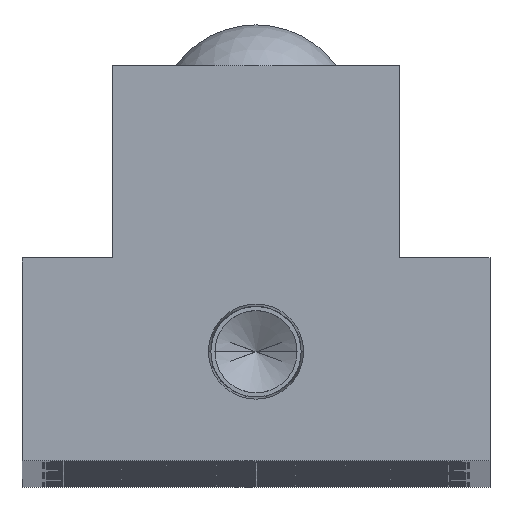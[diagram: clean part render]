
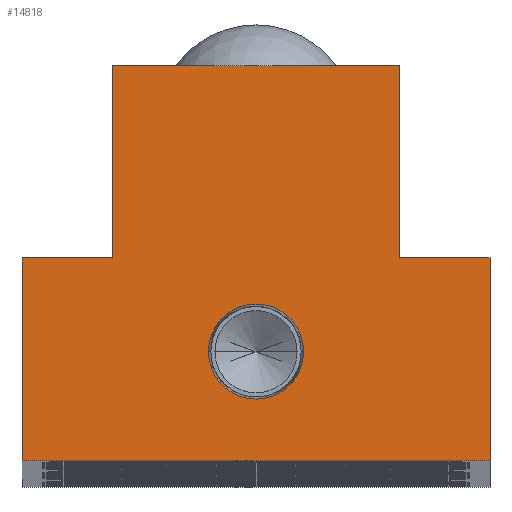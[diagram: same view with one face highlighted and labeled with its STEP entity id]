
A CAD part, top view. The second image highlights one B-rep face of the part: STEP entity #14818.
In plain terms, the highlighted planar face has unit normal (0, 0, 1).
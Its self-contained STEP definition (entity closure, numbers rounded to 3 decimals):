
#521 = VERTEX_POINT ( 'NONE', #18515 ) ;
#1374 = DIRECTION ( 'NONE',  ( 0., -1., 0. ) ) ;
#1887 = DIRECTION ( 'NONE',  ( -1., 0., 0. ) ) ;
#2475 = ORIENTED_EDGE ( 'NONE', *, *, #15699, .T. ) ;
#4313 = LINE ( 'NONE', #13684, #20508 ) ;
#4555 = CARTESIAN_POINT ( 'NONE',  ( 13.75, 38., 0. ) ) ;
#4806 = EDGE_CURVE ( 'NONE', #9475, #13739, #19865, .T. ) ;
#5010 = DIRECTION ( 'NONE',  ( 0., 0., 1. ) ) ;
#5022 = DIRECTION ( 'NONE',  ( 0., 0., 1. ) ) ;
#5306 = LINE ( 'NONE', #21991, #24897 ) ;
#5743 = CARTESIAN_POINT ( 'NONE',  ( 13.75, 38., 0. ) ) ;
#5937 = CARTESIAN_POINT ( 'NONE',  ( 22.5, 0., 0. ) ) ;
#6071 = EDGE_LOOP ( 'NONE', ( #14885, #10676, #11767, #23518, #2475, #23434, #18980, #17839 ) ) ;
#6129 = LINE ( 'NONE', #12006, #14990 ) ;
#7221 = CARTESIAN_POINT ( 'NONE',  ( 22.5, 0., 0. ) ) ;
#7274 = CARTESIAN_POINT ( 'NONE',  ( -13.75, 19.5, 0. ) ) ;
#7371 = CARTESIAN_POINT ( 'NONE',  ( 4.574, 10.5, 0. ) ) ;
#7437 = EDGE_CURVE ( 'NONE', #10545, #22189, #22875, .T. ) ;
#7748 = DIRECTION ( 'NONE',  ( 0., 1., 0. ) ) ;
#7944 = VECTOR ( 'NONE', #25620, 1000. ) ;
#7955 = EDGE_CURVE ( 'NONE', #25418, #15511, #12861, .T. ) ;
#7969 = CARTESIAN_POINT ( 'NONE',  ( 13.75, 19.5, 0. ) ) ;
#8516 = VECTOR ( 'NONE', #7748, 1000. ) ;
#9475 = VERTEX_POINT ( 'NONE', #7969 ) ;
#9884 = DIRECTION ( 'NONE',  ( -1., 0., 0. ) ) ;
#9928 = DIRECTION ( 'NONE',  ( -1., 0., 0. ) ) ;
#10445 = EDGE_CURVE ( 'NONE', #14937, #9475, #6129, .T. ) ;
#10545 = VERTEX_POINT ( 'NONE', #22282 ) ;
#10676 = ORIENTED_EDGE ( 'NONE', *, *, #10445, .T. ) ;
#11144 = EDGE_CURVE ( 'NONE', #15511, #25418, #23109, .T. ) ;
#11149 = VECTOR ( 'NONE', #9884, 1000. ) ;
#11632 = AXIS2_PLACEMENT_3D ( 'NONE', #17173, #5022, #19211 ) ;
#11709 = VERTEX_POINT ( 'NONE', #7274 ) ;
#11767 = ORIENTED_EDGE ( 'NONE', *, *, #4806, .T. ) ;
#11986 = DIRECTION ( 'NONE',  ( 1., 0., 0. ) ) ;
#12006 = CARTESIAN_POINT ( 'NONE',  ( 22.5, 19.5, 0. ) ) ;
#12053 = DIRECTION ( 'NONE',  ( 0., 1., 0. ) ) ;
#12135 = FACE_BOUND ( 'NONE', #25530, .T. ) ;
#12195 = CARTESIAN_POINT ( 'NONE',  ( -22.5, 19.5, 0. ) ) ;
#12215 = CARTESIAN_POINT ( 'NONE',  ( 0., 0., 0. ) ) ;
#12748 = EDGE_CURVE ( 'NONE', #13739, #521, #13954, .T. ) ;
#12861 = CIRCLE ( 'NONE', #23227, 4.574 ) ;
#12916 = CARTESIAN_POINT ( 'NONE',  ( -4.574, 10.5, 0. ) ) ;
#13491 = VECTOR ( 'NONE', #11986, 1000. ) ;
#13684 = CARTESIAN_POINT ( 'NONE',  ( -13.75, 38., 0. ) ) ;
#13721 = FACE_OUTER_BOUND ( 'NONE', #6071, .T. ) ;
#13739 = VERTEX_POINT ( 'NONE', #4555 ) ;
#13954 = LINE ( 'NONE', #19583, #7944 ) ;
#14164 = DIRECTION ( 'NONE',  ( 0., 0., -1. ) ) ;
#14818 = ADVANCED_FACE ( 'NONE', ( #12135, #13721 ), #24161, .F. ) ;
#14829 = CARTESIAN_POINT ( 'NONE',  ( 22.5, 19.5, 0. ) ) ;
#14885 = ORIENTED_EDGE ( 'NONE', *, *, #16150, .T. ) ;
#14937 = VERTEX_POINT ( 'NONE', #14829 ) ;
#14990 = VECTOR ( 'NONE', #9928, 1000. ) ;
#15270 = EDGE_CURVE ( 'NONE', #18110, #10545, #23966, .T. ) ;
#15340 = ORIENTED_EDGE ( 'NONE', *, *, #11144, .F. ) ;
#15511 = VERTEX_POINT ( 'NONE', #12916 ) ;
#15536 = ORIENTED_EDGE ( 'NONE', *, *, #7955, .F. ) ;
#15699 = EDGE_CURVE ( 'NONE', #521, #11709, #4313, .T. ) ;
#16150 = EDGE_CURVE ( 'NONE', #22189, #14937, #5306, .T. ) ;
#17160 = CARTESIAN_POINT ( 'NONE',  ( 0., 10.5, 0. ) ) ;
#17173 = CARTESIAN_POINT ( 'NONE',  ( 0., 10.5, 0. ) ) ;
#17785 = AXIS2_PLACEMENT_3D ( 'NONE', #12215, #14164, #1887 ) ;
#17839 = ORIENTED_EDGE ( 'NONE', *, *, #7437, .T. ) ;
#18110 = VERTEX_POINT ( 'NONE', #19375 ) ;
#18515 = CARTESIAN_POINT ( 'NONE',  ( -13.75, 38., 0. ) ) ;
#18980 = ORIENTED_EDGE ( 'NONE', *, *, #15270, .T. ) ;
#19206 = DIRECTION ( 'NONE',  ( 1., 0., 0. ) ) ;
#19211 = DIRECTION ( 'NONE',  ( 1., 0., 0. ) ) ;
#19375 = CARTESIAN_POINT ( 'NONE',  ( -22.5, 19.5, 0. ) ) ;
#19583 = CARTESIAN_POINT ( 'NONE',  ( -13.75, 38., 0. ) ) ;
#19865 = LINE ( 'NONE', #5743, #8516 ) ;
#20508 = VECTOR ( 'NONE', #1374, 1000. ) ;
#21785 = LINE ( 'NONE', #21909, #11149 ) ;
#21909 = CARTESIAN_POINT ( 'NONE',  ( -13.75, 19.5, 0. ) ) ;
#21991 = CARTESIAN_POINT ( 'NONE',  ( 22.5, 19.5, 0. ) ) ;
#22189 = VERTEX_POINT ( 'NONE', #7221 ) ;
#22282 = CARTESIAN_POINT ( 'NONE',  ( -22.5, 0., 0. ) ) ;
#22843 = EDGE_CURVE ( 'NONE', #11709, #18110, #21785, .T. ) ;
#22875 = LINE ( 'NONE', #5937, #13491 ) ;
#23109 = CIRCLE ( 'NONE', #11632, 4.574 ) ;
#23227 = AXIS2_PLACEMENT_3D ( 'NONE', #17160, #5010, #19206 ) ;
#23434 = ORIENTED_EDGE ( 'NONE', *, *, #22843, .T. ) ;
#23518 = ORIENTED_EDGE ( 'NONE', *, *, #12748, .T. ) ;
#23966 = LINE ( 'NONE', #12195, #25210 ) ;
#24161 = PLANE ( 'NONE',  #17785 ) ;
#24897 = VECTOR ( 'NONE', #12053, 1000. ) ;
#25210 = VECTOR ( 'NONE', #26161, 1000. ) ;
#25418 = VERTEX_POINT ( 'NONE', #7371 ) ;
#25530 = EDGE_LOOP ( 'NONE', ( #15536, #15340 ) ) ;
#25620 = DIRECTION ( 'NONE',  ( -1., 0., 0. ) ) ;
#26161 = DIRECTION ( 'NONE',  ( 0., -1., 0. ) ) ;
